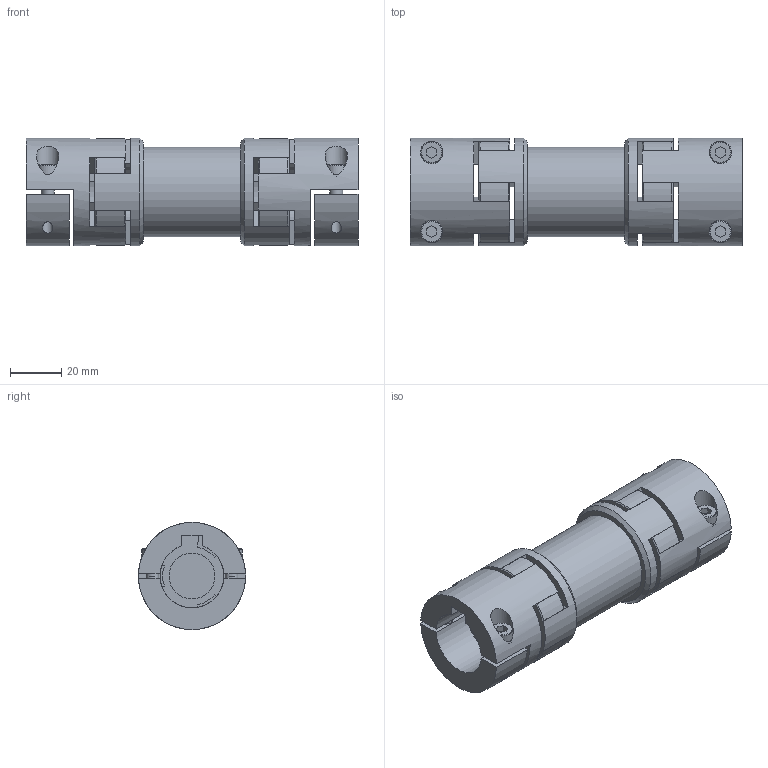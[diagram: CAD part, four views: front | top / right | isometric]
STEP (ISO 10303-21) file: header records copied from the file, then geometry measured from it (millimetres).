
FILE_DESCRIPTION(/* description */ ('STEP AP214'),/* implementation_level */ '2;1');
FILE_NAME(/* name */ 'C:\Diequa Files\DieQua Coupling\LE\STP\LE.20.L.AB.#.#.stp',/* time_stamp */ '2019-05-02T09:33:01-05:00',/* author */ ('DiequaCAD'),/* organization */ (''),/* preprocessor_version */ 'ST-DEVELOPER v18',/* originating_system */ 'Autodesk Inventor 2020',/* authorisation */ ' ');
FILE_SCHEMA (('AUTOMOTIVE_DESIGN { 1 0 10303 214 3 1 1 }'));
Length unit declared in the file: millimetre
Products named in the file (1): EZ2_20_25_PFN_25_PFN_2
Bounding box: 130 x 42 x 42 mm (x, y, z)
Volume: 95681.9 mm3; surface area: 40340.3 mm2
Topology: 1 solids, 2 shells, 200 faces, 568 edges, 378 vertices
Faces by surface type: plane 112, cylinder 58, cone 26, torus 4
Full cylindrical faces by diameter (mm): 4 x4, 5 x4, 5.5 x4, 8.5 x4, 8.8 x4, 18 x2, 28 x1, 35 x1, 42 x4
Entity records: 6928 total; most frequent: CARTESIAN_POINT 1449, DIRECTION 1150, ORIENTED_EDGE 1136, EDGE_CURVE 568, AXIS2_PLACEMENT_3D 395, VERTEX_POINT 378, LINE 360, VECTOR 360
